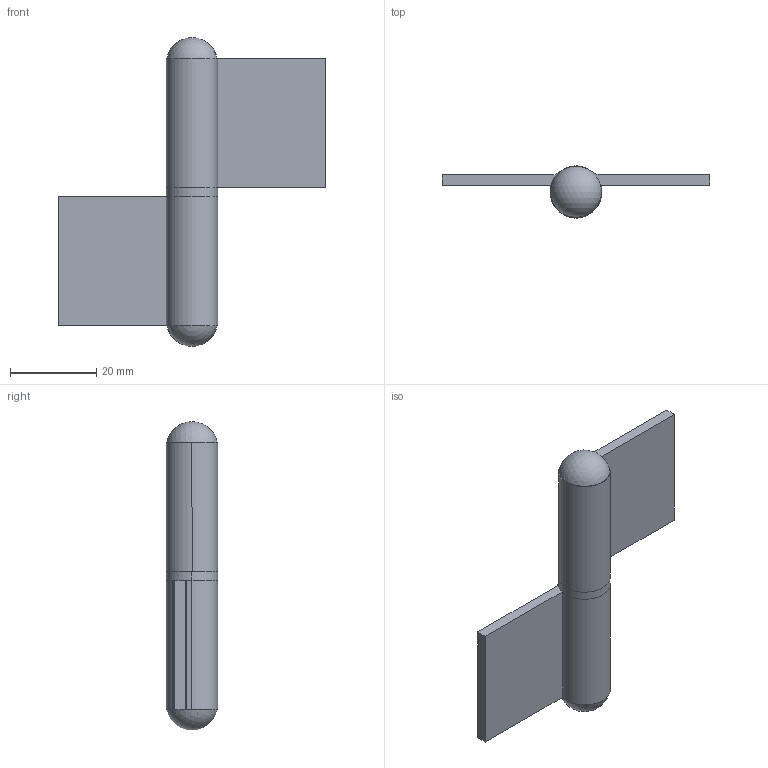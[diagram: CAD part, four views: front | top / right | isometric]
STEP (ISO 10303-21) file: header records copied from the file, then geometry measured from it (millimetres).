
FILE_DESCRIPTION((''),'2;1');
FILE_NAME('6073.01-02.stp','2015-07-22T15:47:37',(''),(''),'Mechanical Desktop 2006','Mechanical Desktop 2006',', , ');
FILE_SCHEMA(('CONFIG_CONTROL_DESIGN'));
Length unit declared in the file: millimetre
Products named in the file (2): 6073.01-02; TEIL1
Assembly tree (1 placements, depth 2):
  6073.01-02
    TEIL1
Bounding box: 62 x 12 x 71.6 mm (x, y, z)
Volume: 11394.6 mm3; surface area: 8243.1 mm2
Topology: 3 solids, 3 shells, 37 faces, 89 edges, 59 vertices
Faces by surface type: cylinder 19, plane 16, sphere 2
Entity records: 1209 total; most frequent: DIRECTION 210, CARTESIAN_POINT 187, ORIENTED_EDGE 178, EDGE_CURVE 89, AXIS2_PLACEMENT_3D 82, VERTEX_POINT 59, VECTOR 46, LINE 46
